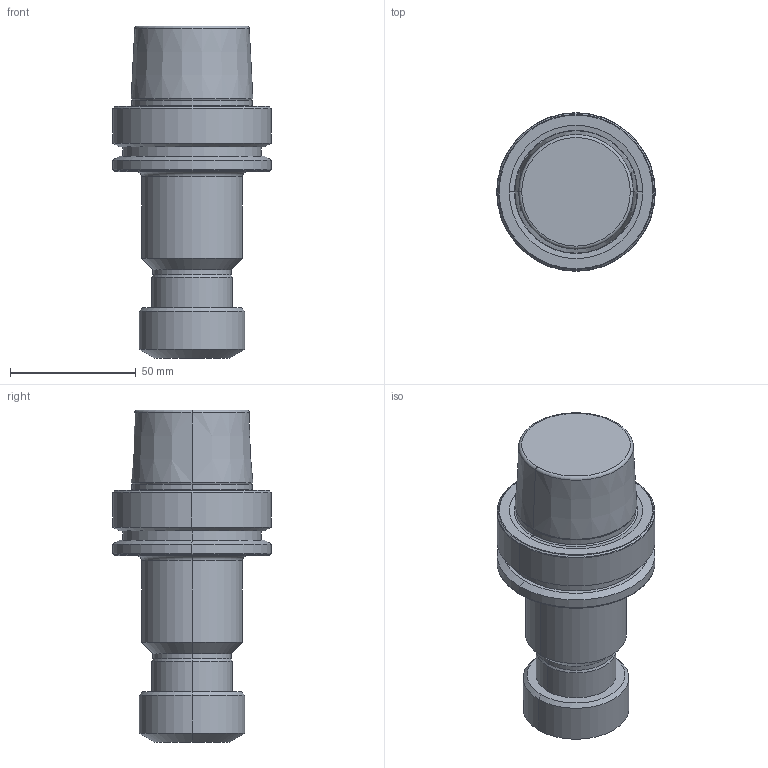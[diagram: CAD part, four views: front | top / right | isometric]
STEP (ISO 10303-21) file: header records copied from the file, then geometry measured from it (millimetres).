
FILE_DESCRIPTION (( 'STEP AP203' ), '1' );
FILE_NAME ('HSK-A 63 ER 25 100.STEP', '2019-05-10T06:13:45', ( '' ), ( '' ), 'SwSTEP 2.0', 'SolidWorks 2014', '' );
FILE_SCHEMA (( 'CONFIG_CONTROL_DESIGN' ));
Length unit declared in the file: millimetre
Products named in the file (1): HSK-A 63 ER 25 100
Bounding box: 63 x 63 x 131.9 mm (x, y, z)
Volume: 218687.6 mm3; surface area: 25973.7 mm2
Topology: 1 solids, 1 shells, 59 faces, 116 edges, 64 vertices
Faces by surface type: cone 22, cylinder 16, torus 14, plane 7
Entity records: 1585 total; most frequent: DIRECTION 314, CARTESIAN_POINT 240, ORIENTED_EDGE 232, AXIS2_PLACEMENT_3D 138, EDGE_CURVE 116, CIRCLE 78, EDGE_LOOP 64, VERTEX_POINT 64
